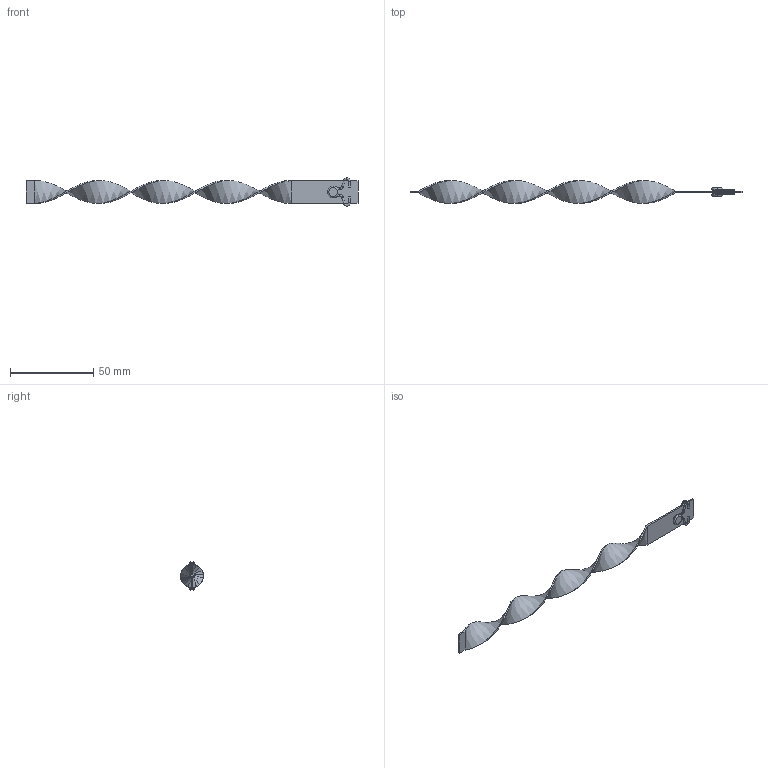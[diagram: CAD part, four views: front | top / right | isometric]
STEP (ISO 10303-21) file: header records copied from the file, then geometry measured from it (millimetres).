
FILE_DESCRIPTION (( 'STEP AP203' ), '1' );
FILE_NAME ('RLAS-14x200.STEP', '2016-02-11T16:28:55', ( 'Balzi' ), ( '' ), 'SwSTEP 2.0', 'SolidWorks 2015', '' );
FILE_SCHEMA (( 'CONFIG_CONTROL_DESIGN' ));
Length unit declared in the file: millimetre
Products named in the file (1): RLAS-14x200
Bounding box: 200 x 13.84 x 16.99 mm (x, y, z)
Volume: 2886.7 mm3; surface area: 6608.4 mm2
Topology: 5 solids, 5 shells, 92 faces, 178 edges, 96 vertices
Faces by surface type: torus 40, cylinder 30, plane 18, bspline 4
Entity records: 3903 total; most frequent: CARTESIAN_POINT 1907, DIRECTION 472, ORIENTED_EDGE 356, AXIS2_PLACEMENT_3D 209, EDGE_CURVE 178, CIRCLE 120, VERTEX_POINT 96, EDGE_LOOP 94
